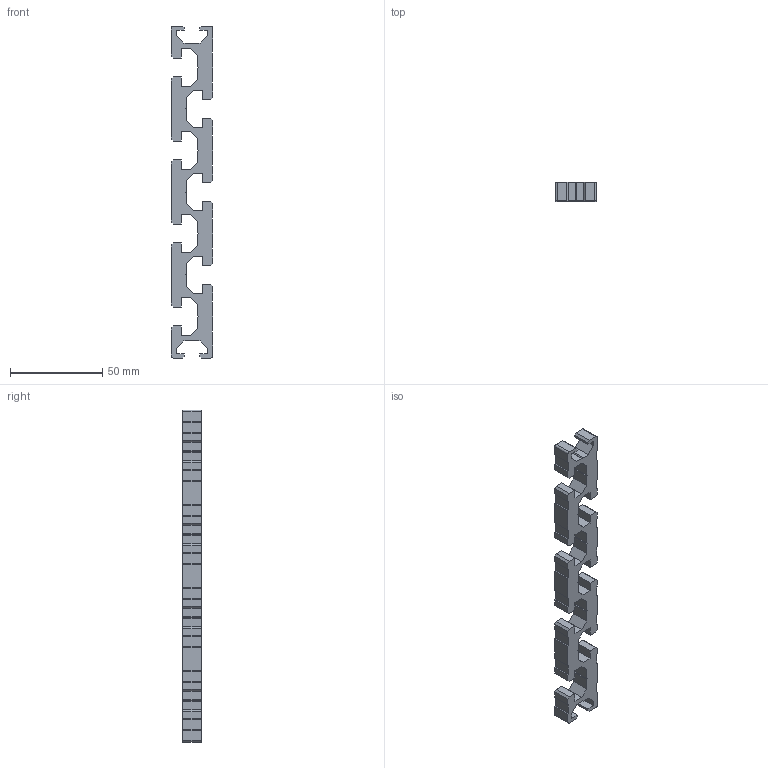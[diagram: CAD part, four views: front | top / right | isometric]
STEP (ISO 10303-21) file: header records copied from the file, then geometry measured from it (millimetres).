
FILE_DESCRIPTION((''),'2;1');
FILE_NAME('PR225180P','2002-12-27T',('Lipro doo'),('Lipro d.o.o.'),'PRO/ENGINEER BY PARAMETRIC TECHNOLOGY CORPORATION, 2001150','PRO/ENGINEER BY PARAMETRIC TECHNOLOGY CORPORATION, 2001150','');
FILE_SCHEMA(('CONFIG_CONTROL_DESIGN'));
Length unit declared in the file: millimetre
Products named in the file (1): PR225180P
Bounding box: 22.5 x 10 x 180 mm (x, y, z)
Volume: 21650.3 mm3; surface area: 12107.8 mm2
Topology: 1 solids, 1 shells, 209 faces, 621 edges, 414 vertices
Faces by surface type: plane 205, cylinder 4
Entity records: 6901 total; most frequent: CARTESIAN_POINT 1244, ORIENTED_EDGE 1242, DIRECTION 1047, EDGE_CURVE 621, VECTOR 613, LINE 613, VERTEX_POINT 414, AXIS2_PLACEMENT_3D 217
